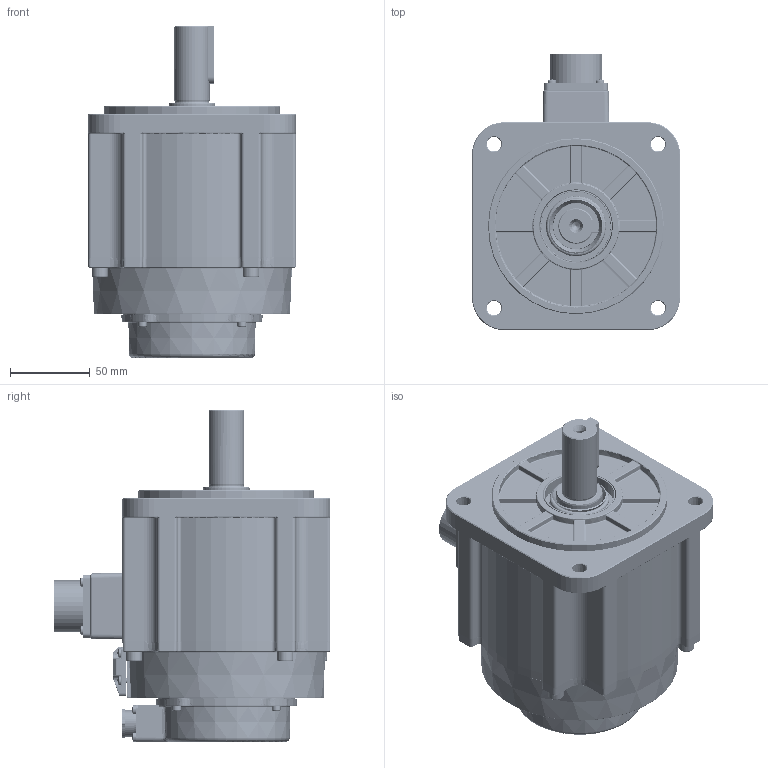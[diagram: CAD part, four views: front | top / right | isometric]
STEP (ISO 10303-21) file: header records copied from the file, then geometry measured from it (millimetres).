
FILE_DESCRIPTION (( 'STEP AP203' ), '1' );
FILE_NAME ('130µç»ú_DM2A-13A130I8E.STEP', '2025-04-08T06:52:15', ( 'MIDEA' ), ( 'MIDEA' ), 'SwSTEP 2.0', 'SolidWorks 2020', '' );
FILE_SCHEMA (( 'CONFIG_CONTROL_DESIGN' ));
Length unit declared in the file: millimetre
Products named in the file (36): 2010100-0185_内六角圆柱头螺钉-M6x20-8.8级-镀锌镍合金+耐落(GB-T 70.1); 3026400-0030_动力连接器插座组件_DLQ15A130DM1S-B; 130珨极褲禱矗_YTK13A130DM2AM; 130綴傷裔禱矗_HDG13A130PH3SM-B; 1022900-0078_秶雄ん堤盄裔_CXG15A130DM1S; 1022700-0047_130躇猾菜_MFD15A130DM1S; 2010200-0186_十字盘头带垫螺丝-M3x4（镀白镍); 23BIT_EN_PH3_蕼偞; 130粣_Z13A130DM2A-B; 60滅蚐眲揤裔_YG04A60PH3; 1022600-0017_蚐猾-TC30X45X8-NBR; 130萇儂_DM2A-13A130I8E; 2010200-0229十字槽盘头螺钉-M3x8-8.8级-镀锌镍合金+耐落+密封(GB-T818 2000); 130隅赽傖こ_DZ13A130DM2A-B; 2010100-0180_内六角圆柱头螺钉-M3x10-8.8级-镀锌镍合金+耐落(GB-T 70.1); 1030204-0056_萇埭脣釱-YD28J7Z; 1012100-0156_濮揤諉盄傷赽_RV2-3懦; 1022700-0046_130O型圈_OR15A130DM1S; 130珨极褲_YTK13A130DM2A; 130綴傷裔_HDG13A130DM2A-B; 2010200-0231_十字槽盘头自挤螺钉-M3x8-镀锌镍合金（黑）（GB-T 6560）; 1030204-0223_信号连接器公座-连接器插座23.4x23.4mm-插针10xΦ0.7-工作电流3A-耐压900V额定200V; 2011200-0089_疏倛粟銅-孜62x孜51.69x2.36x0.61; 1022500-0070_深沟球轴承_深沟球轴承-6206ZZCML448; 1022500-0071_深沟球轴承_深沟球轴承-6204LUZCML448; 棠詩_CG13A130DM2A; 2010100-0197_内六角圆柱头螺钉-M5x12-8.8级-镀锌镍合金+耐落+密封(GB-T 70.1); 3021200-0021_130后罩壳（黑色）_HZK15A130DM1S-H; 1030207-0244_130蟀諉ん價釱躇猾菜_LQMF15A130DM1S; 20BIT_EN_PH3_蕼偞; 2010500-0094_す瑩-B8x7x32-湍M3れ瑩蹟恇謂(GB-T 1096-2003); 3020106-0048_130编码器成品_130编码器组件（130编码器组件（DM2黑色后罩壳 锐鹰端子式 出线17）; 蛌赽郪璃_ZZ13A130DM2A-B; 1022700-0049_秶雄ん堤盄躇猾菜_CXMFQ15A130DM1S; 2010200-0227_十字槽盘头螺钉-M3x30-8.8级-镀锌镍合金+耐落(GB-T818 2000); 1030207-0243_130蟀諉ん價釱_LQZ15A130DM1S
Assembly tree (61 placements, depth 4):
  130萇儂_DM2A-13A130I8E
    130隅赽傖こ_DZ13A130DM2A-B
      1030207-0243_130蟀諉ん價釱_LQZ15A130DM1S
      2010200-0186_十字盘头带垫螺丝-M3x4（镀白镍)
      2010200-0227_十字槽盘头螺钉-M3x30-8.8级-镀锌镍合金+耐落(GB-T818 2000)  x4
      3026400-0030_动力连接器插座组件_DLQ15A130DM1S-B
        1030204-0056_萇埭脣釱-YD28J7Z
        1012100-0156_濮揤諉盄傷赽_RV2-3懦
      1030207-0244_130蟀諉ん價釱躇猾菜_LQMF15A130DM1S
      130珨极褲_YTK13A130DM2A
        130珨极褲禱矗_YTK13A130DM2AM
    130綴傷裔_HDG13A130DM2A-B
      130綴傷裔禱矗_HDG13A130PH3SM-B
    蛌赽郪璃_ZZ13A130DM2A-B
      130粣_Z13A130DM2A-B
      1022500-0070_深沟球轴承_深沟球轴承-6206ZZCML448
      1022500-0071_深沟球轴承_深沟球轴承-6204LUZCML448
      棠詩_CG13A130DM2A  x10
    2011200-0089_疏倛粟銅-孜62x孜51.69x2.36x0.61
    1022600-0017_蚐猾-TC30X45X8-NBR
    1022700-0046_130O型圈_OR15A130DM1S
    2010100-0185_内六角圆柱头螺钉-M6x20-8.8级-镀锌镍合金+耐落(GB-T 70.1)  x4
    2010100-0180_内六角圆柱头螺钉-M3x10-8.8级-镀锌镍合金+耐落(GB-T 70.1)  x4
    2010500-0094_す瑩-B8x7x32-湍M3れ瑩蹟恇謂(GB-T 1096-2003)
    3020106-0048_130编码器成品_130编码器组件（130编码器组件（DM2黑色后罩壳 锐鹰端子式 出线17）
      3021200-0021_130后罩壳（黑色）_HZK15A130DM1S-H
      1030204-0223_信号连接器公座-连接器插座23.4x23.4mm-插针10xΦ0.7-工作电流3A-耐压900V额定200V
      2010200-0231_十字槽盘头自挤螺钉-M3x8-镀锌镍合金（黑）（GB-T 6560）  x4
    1022700-0047_130躇猾菜_MFD15A130DM1S
    1022700-0049_秶雄ん堤盄躇猾菜_CXMFQ15A130DM1S
    1022900-0078_秶雄ん堤盄裔_CXG15A130DM1S
    2010200-0229十字槽盘头螺钉-M3x8-8.8级-镀锌镍合金+耐落+密封(GB-T818 2000)  x4
    2010100-0197_内六角圆柱头螺钉-M5x12-8.8级-镀锌镍合金+耐落+密封(GB-T 70.1)  x3
    60滅蚐眲揤裔_YG04A60PH3
    20BIT_EN_PH3_蕼偞
    23BIT_EN_PH3_蕼偞
Bounding box: 130 x 173 x 207.65 mm (x, y, z)
Volume: 824609 mm3; surface area: 352361.6 mm2
Topology: 103 solids, 103 shells, 10610 faces, 27210 edges, 17633 vertices
Faces by surface type: plane 5580, cylinder 2193, bspline 1944, cone 433, torus 298, sphere 162
Full cylindrical faces by diameter (mm): 0.2 x4, 0.5 x1, 0.55 x2, 1.2 x1, 1.6 x6, 2 x4, 2.05 x2, 2.2 x2, 2.4 x6, 2.5 x33, 2.7 x4, 2.8 x4, 3 x23, 3.1 x1, 3.5 x15, 3.6 x6, 3.8 x4, 4 x3, 4.71 x1, 5 x8, 5.5 x5, 5.6 x12, 6 x8, 7 x2, 8 x2, 8.5 x3, 10 x4, 11.5 x1, 12 x1, 12.1 x1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
Entity records: 390275 total; most frequent: CARTESIAN_POINT 151534, ORIENTED_EDGE 50998, DIRECTION 42981, EDGE_CURVE 25499, VERTEX_POINT 16805, LINE 15773, VECTOR 15773, AXIS2_PLACEMENT_3D 13604
